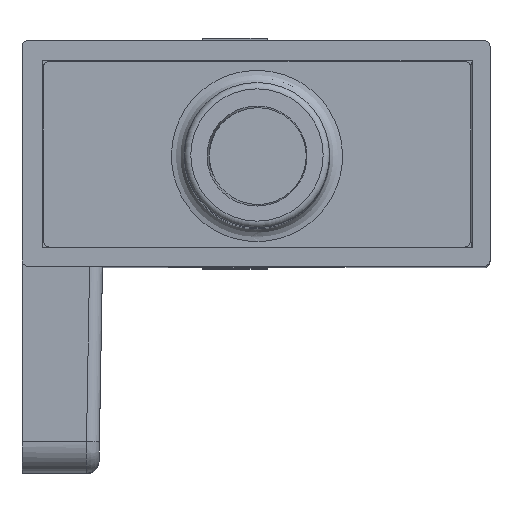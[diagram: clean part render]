
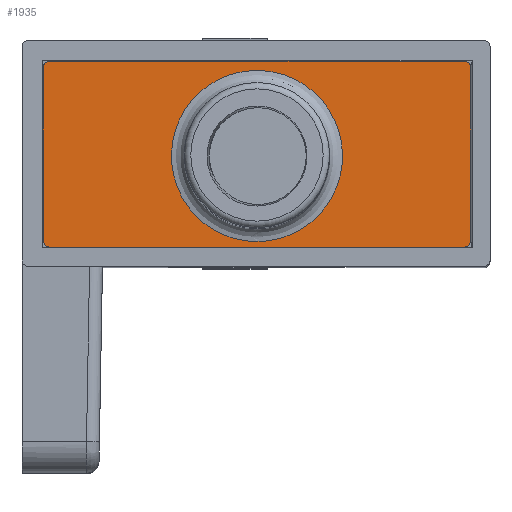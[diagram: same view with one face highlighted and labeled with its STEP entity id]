
A CAD part, top view. The second image highlights one B-rep face of the part: STEP entity #1935.
In plain terms, the highlighted planar face has unit normal (0, 0, 1).
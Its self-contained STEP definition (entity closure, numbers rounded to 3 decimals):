
#138=ELLIPSE('',#5423,2.65,2.65);
#857=LINE('',#8243,#1418);
#861=LINE('',#8251,#1422);
#863=LINE('',#8259,#1424);
#864=LINE('',#8264,#1425);
#1418=VECTOR('',#6582,1.);
#1422=VECTOR('',#6588,1.);
#1424=VECTOR('',#6596,1.);
#1425=VECTOR('',#6601,1.);
#1676=PLANE('',#5428);
#1935=ADVANCED_FACE('',(#2151,#2152),#1676,.F.);
#2151=FACE_BOUND('',#2451,.T.);
#2152=FACE_BOUND('',#2452,.T.);
#2451=EDGE_LOOP('',(#3652));
#2452=EDGE_LOOP('',(#3653,#3654,#3655,#3656,#3657,#3658,#3659,#3660));
#3652=ORIENTED_EDGE('',*,*,#4948,.T.);
#3653=ORIENTED_EDGE('',*,*,#4946,.T.);
#3654=ORIENTED_EDGE('',*,*,#4949,.F.);
#3655=ORIENTED_EDGE('',*,*,#4950,.T.);
#3656=ORIENTED_EDGE('',*,*,#4951,.F.);
#3657=ORIENTED_EDGE('',*,*,#4942,.T.);
#3658=ORIENTED_EDGE('',*,*,#4952,.F.);
#3659=ORIENTED_EDGE('',*,*,#4953,.F.);
#3660=ORIENTED_EDGE('',*,*,#4954,.F.);
#4300=VERTEX_POINT('',#8244);
#4301=VERTEX_POINT('',#8245);
#4302=VERTEX_POINT('',#8250);
#4303=VERTEX_POINT('',#8252);
#4304=VERTEX_POINT('',#8256);
#4305=VERTEX_POINT('',#8258);
#4306=VERTEX_POINT('',#8260);
#4307=VERTEX_POINT('',#8263);
#4308=VERTEX_POINT('',#8265);
#4942=EDGE_CURVE('',#4300,#4301,#857,.T.);
#4946=EDGE_CURVE('',#4303,#4302,#861,.T.);
#4948=EDGE_CURVE('',#4304,#4304,#138,.T.);
#4949=EDGE_CURVE('',#4305,#4302,#5105,.T.);
#4950=EDGE_CURVE('',#4305,#4306,#863,.T.);
#4951=EDGE_CURVE('',#4300,#4306,#5106,.T.);
#4952=EDGE_CURVE('',#4307,#4301,#5107,.T.);
#4953=EDGE_CURVE('',#4308,#4307,#864,.T.);
#4954=EDGE_CURVE('',#4303,#4308,#5108,.T.);
#5105=CIRCLE('',#5424,0.2);
#5106=CIRCLE('',#5425,0.2);
#5107=CIRCLE('',#5426,0.2);
#5108=CIRCLE('',#5427,0.2);
#5423=AXIS2_PLACEMENT_3D('',#8255,#6592,#6593);
#5424=AXIS2_PLACEMENT_3D('',#8257,#6594,#6595);
#5425=AXIS2_PLACEMENT_3D('',#8261,#6597,#6598);
#5426=AXIS2_PLACEMENT_3D('',#8262,#6599,#6600);
#5427=AXIS2_PLACEMENT_3D('',#8266,#6602,#6603);
#5428=AXIS2_PLACEMENT_3D('',#8267,#6604,#6605);
#6582=DIRECTION('',(0.,1.,0.));
#6588=DIRECTION('',(0.,-1.,0.));
#6592=DIRECTION('',(0.,0.,-1.));
#6593=DIRECTION('',(0.,-1.,0.));
#6594=DIRECTION('',(0.,0.,-1.));
#6595=DIRECTION('',(0.,-1.,0.));
#6596=DIRECTION('',(1.,0.,0.));
#6597=DIRECTION('',(0.,0.,-1.));
#6598=DIRECTION('',(1.,0.,0.));
#6599=DIRECTION('',(0.,0.,-1.));
#6600=DIRECTION('',(0.,1.,0.));
#6601=DIRECTION('',(1.,0.,0.));
#6602=DIRECTION('',(0.,0.,-1.));
#6603=DIRECTION('',(-1.,0.,0.));
#6604=DIRECTION('',(0.,0.,-1.));
#6605=DIRECTION('',(-1.,0.,0.));
#8243=CARTESIAN_POINT('',(-83.2,-3.366,14.384));
#8244=CARTESIAN_POINT('',(-83.2,-6.006,14.384));
#8245=CARTESIAN_POINT('',(-83.2,-0.646,14.384));
#8250=CARTESIAN_POINT('',(-96.44,-6.006,14.384));
#8251=CARTESIAN_POINT('',(-96.44,-3.366,14.384));
#8252=CARTESIAN_POINT('',(-96.44,-0.646,14.384));
#8255=CARTESIAN_POINT('',(-89.82,-3.384,14.384));
#8256=CARTESIAN_POINT('',(-89.82,-6.034,14.384));
#8257=CARTESIAN_POINT('',(-96.24,-6.006,14.384));
#8258=CARTESIAN_POINT('',(-96.24,-6.206,14.384));
#8259=CARTESIAN_POINT('',(-89.82,-6.206,14.384));
#8260=CARTESIAN_POINT('',(-83.4,-6.206,14.384));
#8261=CARTESIAN_POINT('',(-83.4,-6.006,14.384));
#8262=CARTESIAN_POINT('',(-83.4,-0.646,14.384));
#8263=CARTESIAN_POINT('',(-83.4,-0.446,14.384));
#8264=CARTESIAN_POINT('',(-89.82,-0.446,14.384));
#8265=CARTESIAN_POINT('',(-96.24,-0.446,14.384));
#8266=CARTESIAN_POINT('',(-96.24,-0.646,14.384));
#8267=CARTESIAN_POINT('',(-89.82,-3.366,14.384));
